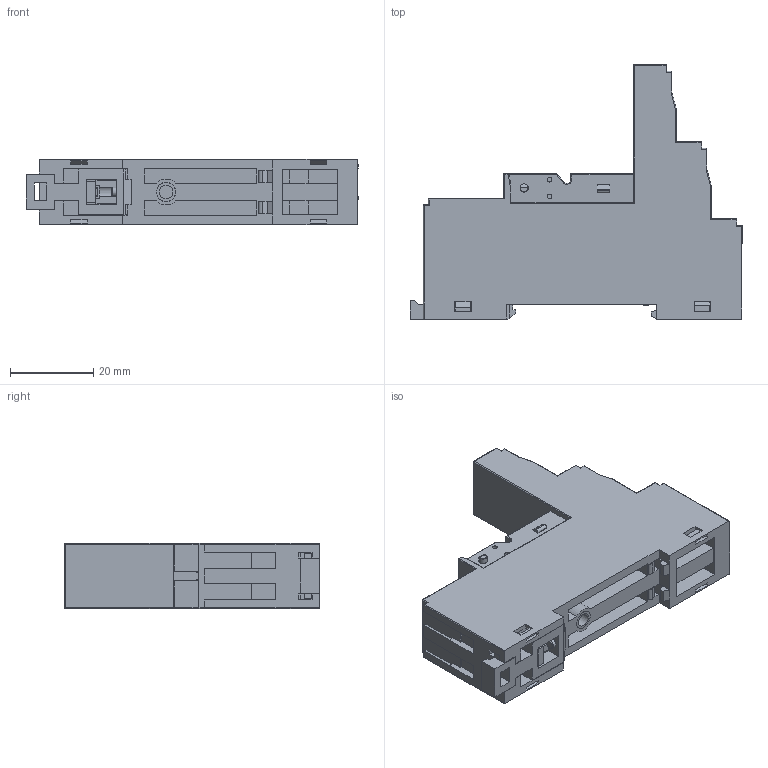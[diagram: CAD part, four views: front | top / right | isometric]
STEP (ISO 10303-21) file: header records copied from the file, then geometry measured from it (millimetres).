
FILE_DESCRIPTION (( 'STEP AP214' ), '1' );
FILE_NAME ('SRU08-E 俋倛芞.STEP', '2024-07-30T01:52:24', ( 'admin' ), ( '' ), 'SwSTEP 2.0', 'SolidWorks 2022', '' );
FILE_SCHEMA (( 'AUTOMOTIVE_DESIGN' ));
Length unit declared in the file: millimetre
Products named in the file (2): SRU08-E價釱7.810.592.04SW(IP20); SRU08-E 俋倛芞
Assembly tree (1 placements, depth 2):
  SRU08-E 俋倛芞
    SRU08-E價釱7.810.592.04SW(IP20)
Bounding box: 79.58 x 61.06 x 15.6 mm (x, y, z)
Volume: 32966.3 mm3; surface area: 24016.1 mm2
Topology: 1 solids, 35 shells, 3113 faces, 8690 edges, 5668 vertices
Faces by surface type: plane 1927, cylinder 664, cone 263, torus 241, sphere 18
Entity records: 103553 total; most frequent: CARTESIAN_POINT 24123, ORIENTED_EDGE 17312, DIRECTION 15666, EDGE_CURVE 8656, LINE 5726, VECTOR 5726, VERTEX_POINT 5668, AXIS2_PLACEMENT_3D 4970
